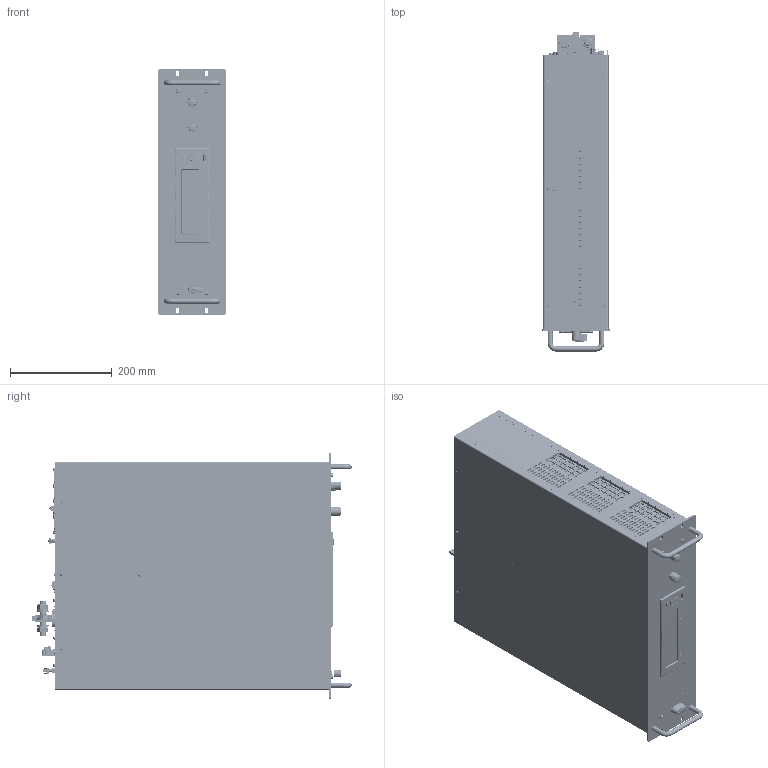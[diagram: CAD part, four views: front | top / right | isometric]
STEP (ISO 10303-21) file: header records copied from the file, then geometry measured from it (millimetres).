
FILE_DESCRIPTION(/* description */ (''),/* implementation_level */ '2;1');
FILE_NAME(/* name */ 'A:\Data\_dwg to pdf purchase\_in behandeling\step files\SM70-CP-450_No Feet.stp',/* time_stamp */ '2022-11-04T11:06:19+01:00',/* author */ ('Simon'),/* organization */ (''),/* preprocessor_version */ 'ST-DEVELOPER v18.1',/* originating_system */ 'Autodesk Inventor 2022',/* authorisation */ '');
FILE_SCHEMA (('AUTOMOTIVE_DESIGN { 1 0 10303 214 3 1 1 }'));
Products named in the file (1): SM70-CP-450
Bounding box: 132 x 628.5 x 482.5 mm (x, y, z)
Volume: 30948604.6 mm3; surface area: 1020165.4 mm2
Topology: 3 solids, 3 shells, 10336 faces, 26630 edges, 16466 vertices
Faces by surface type: plane 6297, cylinder 2274, cone 959, bspline 579, torus 202, sphere 25
Full cylindrical faces by diameter (mm): 0.339 x4, 0.457 x3, 1 x4, 1.1 x2, 1.2 x5, 1.3 x3, 1.4 x2, 1.5 x8, 1.6 x18, 1.7 x2, 2 x4, 2.459 x2, 2.5 x13, 2.6 x1, 3 x11, 3.05 x1, 3.2 x3, 3.5 x52, 4 x6, 4.1 x6, 4.22 x4, 4.3 x12, 4.5 x23, 4.6 x13, 5 x1, 5.4 x4, 5.5 x33, 5.6 x3, 6 x22, 7.7 x4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
Entity records: 345912 total; most frequent: CARTESIAN_POINT 86909, ORIENTED_EDGE 52964, DIRECTION 50439, EDGE_CURVE 26482, LINE 17305, VECTOR 17305, AXIS2_PLACEMENT_3D 16567, VERTEX_POINT 16466
